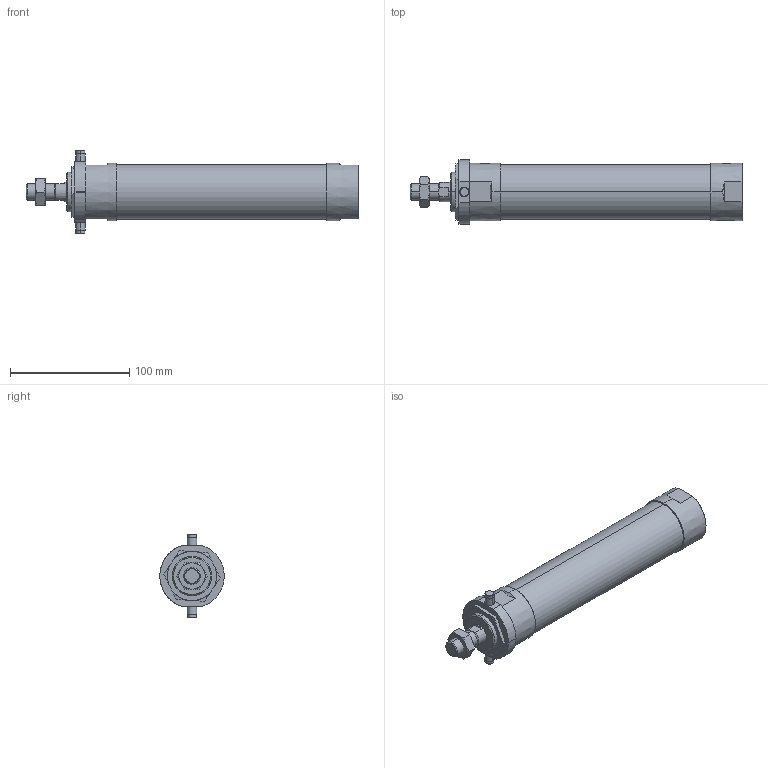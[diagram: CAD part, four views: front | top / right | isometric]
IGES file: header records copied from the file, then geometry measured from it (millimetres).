
Start section: SolidWorks IGES file using analytic representation for surfaces
Global section: file name: C:\Users\Toshiba\Desktop\JGND2-40-125-T.IGS; native system: SolidWorks 2014; preprocessor: SolidWorks 2014; author: Toshiba; date: 160804.111209; units: millimetre
Bounding box: 278 x 54 x 70 mm (x, y, z)
Surface area: 50738.8 mm2 (no closed solid volume)
Topology: 0 solids, 0 shells, 116 faces, 2138 edges, 2134 vertices
Faces by surface type: bspline 62, revolution 54
